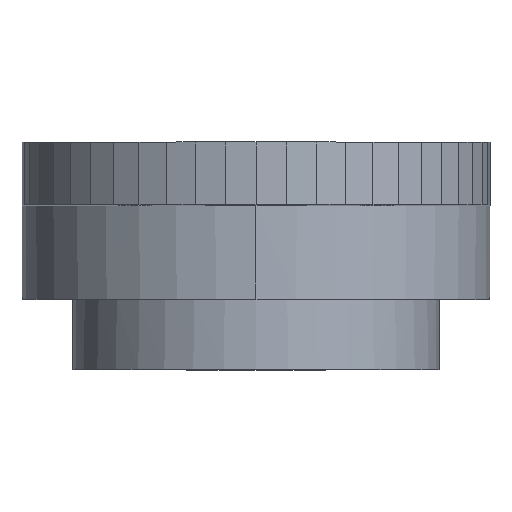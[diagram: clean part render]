
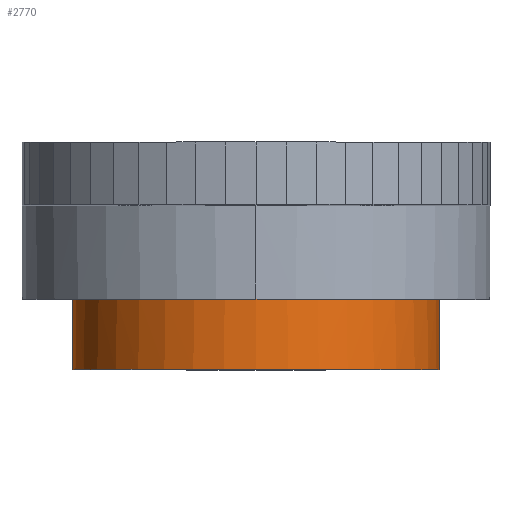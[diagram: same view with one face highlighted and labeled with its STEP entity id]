
A CAD part, top view. The second image highlights one B-rep face of the part: STEP entity #2770.
In plain terms, the highlighted cylindrical face has radius 23.5 mm (diameter 47 mm), a full revolution.
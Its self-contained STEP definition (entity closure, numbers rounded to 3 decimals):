
#45 = PLANE('',#46);
#46 = AXIS2_PLACEMENT_3D('',#47,#48,#49);
#47 = CARTESIAN_POINT('',(0.,46.,0.));
#48 = DIRECTION('',(0.,1.,0.));
#49 = DIRECTION('',(0.,-0.,1.));
#568 = VERTEX_POINT('',#569);
#569 = CARTESIAN_POINT('',(1.,46.,-23.479));
#593 = EDGE_CURVE('',#594,#568,#596,.T.);
#594 = VERTEX_POINT('',#595);
#595 = CARTESIAN_POINT('',(0.,46.,23.5));
#596 = SURFACE_CURVE('',#597,(#602,#609),.PCURVE_S1.);
#597 = CIRCLE('',#598,23.5);
#598 = AXIS2_PLACEMENT_3D('',#599,#600,#601);
#599 = CARTESIAN_POINT('',(0.,46.,0.));
#600 = DIRECTION('',(0.,1.,0.));
#601 = DIRECTION('',(0.,-0.,1.));
#602 = PCURVE('',#45,#603);
#603 = DEFINITIONAL_REPRESENTATION('',(#604),#608);
#604 = CIRCLE('',#605,23.5);
#605 = AXIS2_PLACEMENT_2D('',#606,#607);
#606 = CARTESIAN_POINT('',(0.,0.));
#607 = DIRECTION('',(1.,0.));
#608 = ( GEOMETRIC_REPRESENTATION_CONTEXT(2) 
PARAMETRIC_REPRESENTATION_CONTEXT() REPRESENTATION_CONTEXT('2D SPACE',''
  ) );
#609 = PCURVE('',#610,#615);
#610 = CYLINDRICAL_SURFACE('',#611,23.5);
#611 = AXIS2_PLACEMENT_3D('',#612,#613,#614);
#612 = CARTESIAN_POINT('',(0.,37.,0.));
#613 = DIRECTION('',(0.,1.,0.));
#614 = DIRECTION('',(0.,-0.,1.));
#615 = DEFINITIONAL_REPRESENTATION('',(#616),#620);
#616 = LINE('',#617,#618);
#617 = CARTESIAN_POINT('',(0.,9.));
#618 = VECTOR('',#619,1.);
#619 = DIRECTION('',(1.,0.));
#620 = ( GEOMETRIC_REPRESENTATION_CONTEXT(2) 
PARAMETRIC_REPRESENTATION_CONTEXT() REPRESENTATION_CONTEXT('2D SPACE',''
  ) );
#622 = EDGE_CURVE('',#623,#594,#625,.T.);
#623 = VERTEX_POINT('',#624);
#624 = CARTESIAN_POINT('',(-1.,46.,-23.479));
#625 = SURFACE_CURVE('',#626,(#631,#638),.PCURVE_S1.);
#626 = CIRCLE('',#627,23.5);
#627 = AXIS2_PLACEMENT_3D('',#628,#629,#630);
#628 = CARTESIAN_POINT('',(0.,46.,0.));
#629 = DIRECTION('',(0.,1.,0.));
#630 = DIRECTION('',(0.,-0.,1.));
#631 = PCURVE('',#45,#632);
#632 = DEFINITIONAL_REPRESENTATION('',(#633),#637);
#633 = CIRCLE('',#634,23.5);
#634 = AXIS2_PLACEMENT_2D('',#635,#636);
#635 = CARTESIAN_POINT('',(0.,0.));
#636 = DIRECTION('',(1.,0.));
#637 = ( GEOMETRIC_REPRESENTATION_CONTEXT(2) 
PARAMETRIC_REPRESENTATION_CONTEXT() REPRESENTATION_CONTEXT('2D SPACE',''
  ) );
#638 = PCURVE('',#610,#639);
#639 = DEFINITIONAL_REPRESENTATION('',(#640),#644);
#640 = LINE('',#641,#642);
#641 = CARTESIAN_POINT('',(0.,9.));
#642 = VECTOR('',#643,1.);
#643 = DIRECTION('',(1.,0.));
#644 = ( GEOMETRIC_REPRESENTATION_CONTEXT(2) 
PARAMETRIC_REPRESENTATION_CONTEXT() REPRESENTATION_CONTEXT('2D SPACE',''
  ) );
#2549 = PLANE('',#2550);
#2550 = AXIS2_PLACEMENT_3D('',#2551,#2552,#2553);
#2551 = CARTESIAN_POINT('',(0.,46.,0.));
#2552 = DIRECTION('',(0.,1.,0.));
#2553 = DIRECTION('',(0.,-0.,1.));
#2770 = ADVANCED_FACE('',(#2771),#610,.T.);
#2771 = FACE_BOUND('',#2772,.T.);
#2772 = EDGE_LOOP('',(#2773,#2796,#2797,#2819,#2820,#2821));
#2773 = ORIENTED_EDGE('',*,*,#2774,.T.);
#2774 = EDGE_CURVE('',#2775,#594,#2777,.T.);
#2775 = VERTEX_POINT('',#2776);
#2776 = CARTESIAN_POINT('',(0.,37.,23.5));
#2777 = SEAM_CURVE('',#2778,(#2782,#2789),.PCURVE_S1.);
#2778 = LINE('',#2779,#2780);
#2779 = CARTESIAN_POINT('',(0.,37.,23.5));
#2780 = VECTOR('',#2781,1.);
#2781 = DIRECTION('',(0.,1.,0.));
#2782 = PCURVE('',#610,#2783);
#2783 = DEFINITIONAL_REPRESENTATION('',(#2784),#2788);
#2784 = LINE('',#2785,#2786);
#2785 = CARTESIAN_POINT('',(6.283,-0.));
#2786 = VECTOR('',#2787,1.);
#2787 = DIRECTION('',(0.,1.));
#2788 = ( GEOMETRIC_REPRESENTATION_CONTEXT(2) 
PARAMETRIC_REPRESENTATION_CONTEXT() REPRESENTATION_CONTEXT('2D SPACE',''
  ) );
#2789 = PCURVE('',#610,#2790);
#2790 = DEFINITIONAL_REPRESENTATION('',(#2791),#2795);
#2791 = LINE('',#2792,#2793);
#2792 = CARTESIAN_POINT('',(0.,-0.));
#2793 = VECTOR('',#2794,1.);
#2794 = DIRECTION('',(0.,1.));
#2795 = ( GEOMETRIC_REPRESENTATION_CONTEXT(2) 
PARAMETRIC_REPRESENTATION_CONTEXT() REPRESENTATION_CONTEXT('2D SPACE',''
  ) );
#2796 = ORIENTED_EDGE('',*,*,#622,.F.);
#2797 = ORIENTED_EDGE('',*,*,#2798,.F.);
#2798 = EDGE_CURVE('',#568,#623,#2799,.T.);
#2799 = SURFACE_CURVE('',#2800,(#2805,#2812),.PCURVE_S1.);
#2800 = CIRCLE('',#2801,23.5);
#2801 = AXIS2_PLACEMENT_3D('',#2802,#2803,#2804);
#2802 = CARTESIAN_POINT('',(0.,46.,0.));
#2803 = DIRECTION('',(0.,1.,0.));
#2804 = DIRECTION('',(0.,-0.,1.));
#2805 = PCURVE('',#610,#2806);
#2806 = DEFINITIONAL_REPRESENTATION('',(#2807),#2811);
#2807 = LINE('',#2808,#2809);
#2808 = CARTESIAN_POINT('',(0.,9.));
#2809 = VECTOR('',#2810,1.);
#2810 = DIRECTION('',(1.,0.));
#2811 = ( GEOMETRIC_REPRESENTATION_CONTEXT(2) 
PARAMETRIC_REPRESENTATION_CONTEXT() REPRESENTATION_CONTEXT('2D SPACE',''
  ) );
#2812 = PCURVE('',#2549,#2813);
#2813 = DEFINITIONAL_REPRESENTATION('',(#2814),#2818);
#2814 = CIRCLE('',#2815,23.5);
#2815 = AXIS2_PLACEMENT_2D('',#2816,#2817);
#2816 = CARTESIAN_POINT('',(0.,0.));
#2817 = DIRECTION('',(1.,0.));
#2818 = ( GEOMETRIC_REPRESENTATION_CONTEXT(2) 
PARAMETRIC_REPRESENTATION_CONTEXT() REPRESENTATION_CONTEXT('2D SPACE',''
  ) );
#2819 = ORIENTED_EDGE('',*,*,#593,.F.);
#2820 = ORIENTED_EDGE('',*,*,#2774,.F.);
#2821 = ORIENTED_EDGE('',*,*,#2822,.T.);
#2822 = EDGE_CURVE('',#2775,#2775,#2823,.T.);
#2823 = SURFACE_CURVE('',#2824,(#2829,#2836),.PCURVE_S1.);
#2824 = CIRCLE('',#2825,23.5);
#2825 = AXIS2_PLACEMENT_3D('',#2826,#2827,#2828);
#2826 = CARTESIAN_POINT('',(0.,37.,0.));
#2827 = DIRECTION('',(0.,1.,0.));
#2828 = DIRECTION('',(0.,-0.,1.));
#2829 = PCURVE('',#610,#2830);
#2830 = DEFINITIONAL_REPRESENTATION('',(#2831),#2835);
#2831 = LINE('',#2832,#2833);
#2832 = CARTESIAN_POINT('',(0.,0.));
#2833 = VECTOR('',#2834,1.);
#2834 = DIRECTION('',(1.,0.));
#2835 = ( GEOMETRIC_REPRESENTATION_CONTEXT(2) 
PARAMETRIC_REPRESENTATION_CONTEXT() REPRESENTATION_CONTEXT('2D SPACE',''
  ) );
#2836 = PCURVE('',#2837,#2842);
#2837 = PLANE('',#2838);
#2838 = AXIS2_PLACEMENT_3D('',#2839,#2840,#2841);
#2839 = CARTESIAN_POINT('',(0.,37.,0.));
#2840 = DIRECTION('',(0.,1.,0.));
#2841 = DIRECTION('',(0.,-0.,1.));
#2842 = DEFINITIONAL_REPRESENTATION('',(#2843),#2847);
#2843 = CIRCLE('',#2844,23.5);
#2844 = AXIS2_PLACEMENT_2D('',#2845,#2846);
#2845 = CARTESIAN_POINT('',(0.,0.));
#2846 = DIRECTION('',(1.,0.));
#2847 = ( GEOMETRIC_REPRESENTATION_CONTEXT(2) 
PARAMETRIC_REPRESENTATION_CONTEXT() REPRESENTATION_CONTEXT('2D SPACE',''
  ) );
